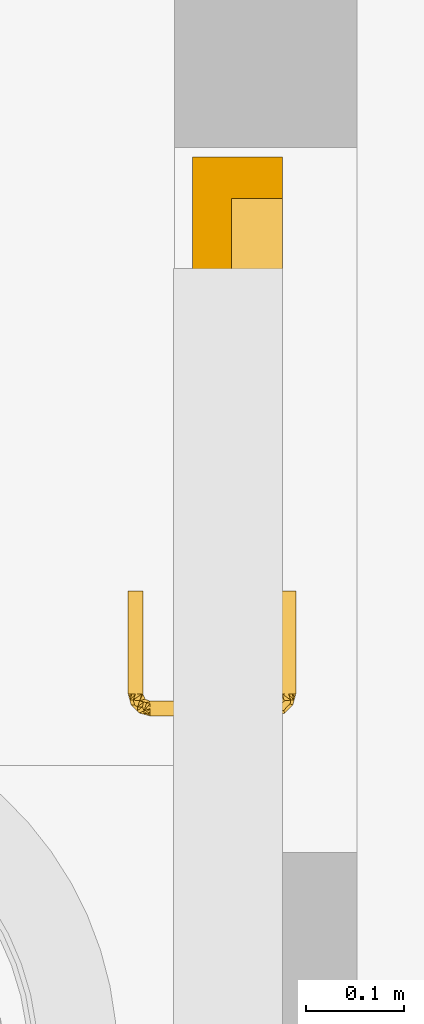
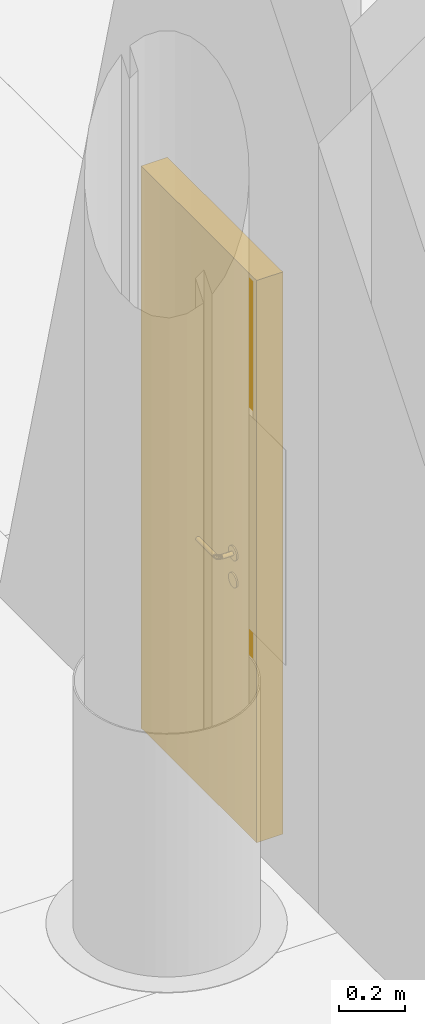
# One storey, part 7 of 10: 1 door.
"""IFC2X3 building model written with IfcOpenShell, lengths in millimetres."""

import ifcopenshell
import ifcopenshell.guid

model = None  # the IFC model being written
_history = None  # IfcOwnerHistory: only IFC2X3 demands one
_inside = {}  # id of a spatial element -> (the spatial element, [elements in it])
_under = {}  # id of a project, library or spatial element -> (it, [spatial elements below it])
_declared = {}  # id of a project -> (the project, [libraries it declares])
_typed = {}  # id of a type object -> (the type object, [elements of that type])
_made_of = {}  # id of a material, layer set ... -> (it, [elements and type objects made of it])


def new_model(schema):
    """Start an empty IFC model of exactly this schema.

    Asked for "IFC4X3", IfcOpenShell would pick the latest addendum, in which some entities
    have other attributes; the version numbers below select the first issue.
    IFC2X3 requires an IfcOwnerHistory on every rooted entity: one is made here for all.
    """
    global model, _history
    if schema == "IFC4X3":
        model = ifcopenshell.file(schema_version=(4, 3, 0, 0))
    else:
        model = ifcopenshell.file(schema=schema)
    _inside.clear()
    _under.clear()
    _declared.clear()
    _typed.clear()
    _made_of.clear()
    _history = None
    if model.schema == "IFC2X3":
        org = make("IfcOrganization", Name="unknown")
        user = make(
            "IfcPersonAndOrganization",
            ThePerson=make("IfcPerson", FamilyName="unknown"),
            TheOrganization=org,
        )
        app = make(
            "IfcApplication",
            ApplicationDeveloper=org,
            Version="unknown",
            ApplicationFullName="unknown",
            ApplicationIdentifier="unknown",
        )
        _history = make(
            "IfcOwnerHistory",
            OwningUser=user,
            OwningApplication=app,
            ChangeAction="ADDED",
            CreationDate=0,
        )
    return model


def make(cls, **values):
    """One entity of the class cls with the attributes given. An attribute that is None is left unset."""
    return model.create_entity(
        cls, **{name: value for name, value in values.items() if value is not None}
    )


def entity(cls, *values):
    """Any entity or typed value of the class cls, its attributes in the order of the schema. None: left unset."""
    e = model.create_entity(cls)
    for i, value in enumerate(values):
        if value is not None:
            e[i] = value
    return e


def rooted(cls, **values):
    """An entity with a GlobalId (a new one), such as an element, a storey or a relation."""
    return make(cls, GlobalId=ifcopenshell.guid.new(), OwnerHistory=_history, **values)


def si_unit(unit_type, name, prefix=None):
    """IfcSIUnit, for example si_unit("LENGTHUNIT", "METRE", prefix="MILLI")."""
    return make("IfcSIUnit", UnitType=unit_type, Prefix=prefix, Name=name)


def converted_unit(unit_type, name, factor, base, dimensions=None, offset=None):
    """IfcConversionBasedUnit, such as the inch: factor (a typed value) times the base unit."""
    return make(
        "IfcConversionBasedUnit"
        if offset is None
        else "IfcConversionBasedUnitWithOffset",
        ConversionOffset=offset,
        Dimensions=None
        if dimensions is None
        else entity("IfcDimensionalExponents", *dimensions),
        UnitType=unit_type,
        Name=name,
        ConversionFactor=make(
            "IfcMeasureWithUnit", ValueComponent=factor, UnitComponent=base
        ),
    )


def derived_unit(unit_type, elements):
    """IfcDerivedUnit: a product of units, each with its exponent."""
    return make(
        "IfcDerivedUnit",
        Elements=[
            make("IfcDerivedUnitElement", Unit=unit, Exponent=power)
            for unit, power in elements
        ],
        UnitType=unit_type,
    )


def assignment(units):
    """IfcUnitAssignment: the units of a project."""
    return None if units is None else make("IfcUnitAssignment", Units=units)


def point(xyz):
    """IfcCartesianPoint."""
    return None if xyz is None else make("IfcCartesianPoint", Coordinates=xyz)


def direction(xyz):
    """IfcDirection."""
    return None if xyz is None else make("IfcDirection", DirectionRatios=xyz)


def frame(location, z_axis=None, x_axis=None):
    """IfcAxis2Placement3D, a coordinate frame: its origin and axes. An axis left out is left unset."""
    return make(
        "IfcAxis2Placement3D",
        Location=point(location),
        Axis=direction(z_axis),
        RefDirection=direction(x_axis),
    )


def frame_2d(location, x_axis=None):
    """IfcAxis2Placement2D, a coordinate frame in the plane: its origin and x axis."""
    return make(
        "IfcAxis2Placement2D", Location=point(location), RefDirection=direction(x_axis)
    )


def origin():
    """The frame at (0, 0, 0) with its axes left unset."""
    return frame((0.0, 0.0, 0.0))


def origin_with_axes():
    """The frame at (0, 0, 0) with the z axis (0, 0, 1) and the x axis (1, 0, 0) written out."""
    return frame((0.0, 0.0, 0.0), z_axis=(0.0, 0.0, 1.0), x_axis=(1.0, 0.0, 0.0))


def origin_2d_with_axis():
    """The frame at (0, 0) in the plane with the x axis (1, 0) written out."""
    return frame_2d((0.0, 0.0), x_axis=(1.0, 0.0))


def place(relative_to, where):
    """IfcLocalPlacement: puts the frame where relative to a parent placement (None: the world)."""
    return make(
        "IfcLocalPlacement", PlacementRelTo=relative_to, RelativePlacement=where
    )


def context(
    kind, dimensions, precision=None, world=None, true_north=None, identifier=None
):
    """IfcGeometricRepresentationContext, for example the 3D "Model" context."""
    return make(
        "IfcGeometricRepresentationContext",
        ContextIdentifier=identifier,
        ContextType=kind,
        CoordinateSpaceDimension=dimensions,
        Precision=precision,
        WorldCoordinateSystem=world,
        TrueNorth=true_north,
    )


def subcontext(parent, identifier, kind, view, scale=None):
    """IfcGeometricRepresentationSubContext, for example "Body" below "Model"."""
    return make(
        "IfcGeometricRepresentationSubContext",
        ContextIdentifier=identifier,
        ContextType=kind,
        ParentContext=parent,
        TargetScale=scale,
        TargetView=view,
    )


def project(units=None, contexts=None):
    """IfcProject with its units and contexts."""
    return rooted(
        "IfcProject",
        Name="project",
        RepresentationContexts=contexts,
        UnitsInContext=assignment(units),
    )


def spatial(cls, under=None, at=None, **own):
    """A site, building, storey or space (cls), placed at a placement, below another one or the project."""
    s = rooted(cls, ObjectPlacement=at, **own)
    if under is not None:
        _under.setdefault(under.id(), (under, []))[1].append(s)
    return s


def polyline(points):
    """IfcPolyline through the points."""
    return make("IfcPolyline", Points=[point(p) for p in points])


def profile(cls, at=None, kind="AREA", **sizes):
    """A parametric profile (cls). Its sizes go by their IFC names, for example OverallWidth=200.0."""
    return make(cls, ProfileType=kind, Position=at, **sizes)


def rectangle(**sizes):
    """IfcRectangleProfileDef."""
    return profile("IfcRectangleProfileDef", **sizes)


def circle(**sizes):
    """IfcCircleProfileDef."""
    return profile("IfcCircleProfileDef", **sizes)


def outline(outer, holes=None, kind="AREA"):
    """IfcArbitraryClosedProfileDef: a profile drawn as a closed curve; with holes, ...WithVoids."""
    if holes is None:
        return make("IfcArbitraryClosedProfileDef", ProfileType=kind, OuterCurve=outer)
    return make(
        "IfcArbitraryProfileDefWithVoids",
        ProfileType=kind,
        OuterCurve=outer,
        InnerCurves=holes,
    )


def extrude(swept, where, along, depth):
    """IfcExtrudedAreaSolid: the profile swept, set in the frame where, extruded along a direction by depth."""
    return make(
        "IfcExtrudedAreaSolid",
        SweptArea=swept,
        Position=where,
        ExtrudedDirection=direction(along),
        Depth=depth,
    )


def faces_of(points, faces, orient=None, outer=None):
    """IfcFace entities. A face is a list of loops; a loop is a list of indices into points, from 0.

    orient and outer hold one flag for each loop. By default every Orientation is true, the
    first loop of a face is its IfcFaceOuterBound and the others are IfcFaceBound.
    """
    made = []
    for i, loops in enumerate(faces):
        bounds = []
        for j, loop in enumerate(loops):
            is_outer = j == 0 if outer is None else outer[i][j]
            bounds.append(
                make(
                    "IfcFaceOuterBound" if is_outer else "IfcFaceBound",
                    Bound=make("IfcPolyLoop", Polygon=[points[k] for k in loop]),
                    Orientation=True if orient is None else orient[i][j],
                )
            )
        made.append(make("IfcFace", Bounds=bounds))
    return made


def faceted_brep(points, faces, orient=None, outer=None, voids=None):
    """IfcFacetedBrep: a solid bounded by flat faces; with voids (closed shells), ...WithVoids."""
    shared = [point(p) for p in points]
    hull = make("IfcClosedShell", CfsFaces=faces_of(shared, faces, orient, outer))
    if voids is None:
        return make("IfcFacetedBrep", Outer=hull)
    return make(
        "IfcFacetedBrepWithVoids",
        Outer=hull,
        Voids=[
            make(cls, CfsFaces=faces_of(shared, fs, o, b)) for cls, fs, o, b in voids
        ],
    )


def shape(context_of_items, identifier, shape_type, items):
    """IfcShapeRepresentation: the items that make up one representation, for example the "Body"."""
    return make(
        "IfcShapeRepresentation",
        ContextOfItems=context_of_items,
        RepresentationIdentifier=identifier,
        RepresentationType=shape_type,
        Items=items,
    )


def source(mapping_origin, context_of_items, identifier, shape_type, items):
    """IfcRepresentationMap: a shape defined once, which mapped items show again and again."""
    return make(
        "IfcRepresentationMap",
        MappingOrigin=mapping_origin,
        MappedRepresentation=shape(context_of_items, identifier, shape_type, items),
    )


def transform(
    local_origin,
    x_axis=None,
    y_axis=None,
    z_axis=None,
    scale=None,
    scale2=None,
    scale3=None,
    uniform=True,
):
    """IfcCartesianTransformationOperator3D, or its non-uniform kind. x_axis, y_axis, z_axis: its Axis1, 2, 3."""
    if uniform:
        return make(
            "IfcCartesianTransformationOperator3D",
            Axis1=direction(x_axis),
            Axis2=direction(y_axis),
            LocalOrigin=point(local_origin),
            Scale=scale,
            Axis3=direction(z_axis),
        )
    return make(
        "IfcCartesianTransformationOperator3DnonUniform",
        Axis1=direction(x_axis),
        Axis2=direction(y_axis),
        LocalOrigin=point(local_origin),
        Scale=scale,
        Axis3=direction(z_axis),
        Scale2=scale2,
        Scale3=scale3,
    )


def mapped(mapping_source, mapping_target):
    """IfcMappedItem: shows the shape of a source again, moved by a transform."""
    return make(
        "IfcMappedItem", MappingSource=mapping_source, MappingTarget=mapping_target
    )


def material(Name=None, Category=None):
    """IfcMaterial."""
    return make("IfcMaterial", Name=Name, Category=Category)


def made_of(thing, what):
    """Note that an element or type object is made of a material, layer set ...; save() writes the relation."""
    if what is not None:
        _made_of.setdefault(what.id(), (what, []))[1].append(thing)
    return thing


def type_object(cls, material=None, **own):
    """A type object (cls), such as IfcWallType, which elements share."""
    return made_of(rooted(cls, **own), material)


def element(
    cls,
    number,
    at=None,
    inside=None,
    cuts=None,
    type_object=None,
    material=None,
    context=None,
    identifier="Body",
    shape_type=None,
    held_by="IfcProductDefinitionShape",
    body=None,
    shapes=None,
    **own,
):
    """One element of the class cls, such as IfcWall. Its Tag is "e" and its number.

    at: its placement. inside: the storey or other place that contains it. cuts: it is an
    opening in that element (IfcRelVoidsElement). A single representation is given by context,
    identifier, shape_type and body (its items); several are given by shapes. held_by: the class
    of the entity that holds the representations. save() writes the other relations.
    """
    e = rooted(cls, Tag="e%d" % number, ObjectPlacement=at, **own)
    if body is not None:
        shapes = [shape(context, identifier, shape_type, body)]
    if shapes is not None:
        e.Representation = make(held_by, Representations=shapes)
    if inside is not None:
        _inside.setdefault(inside.id(), (inside, []))[1].append(e)
    if cuts is not None:
        rooted(
            "IfcRelVoidsElement", RelatingBuildingElement=cuts, RelatedOpeningElement=e
        )
    if type_object is not None:
        _typed.setdefault(type_object.id(), (type_object, []))[1].append(e)
    return made_of(e, material)


def aggregate(whole, parts):
    """IfcRelAggregates: a whole, such as a stair, and the parts it consists of."""
    return rooted("IfcRelAggregates", RelatingObject=whole, RelatedObjects=parts)


def save(model, path):
    """Write the relations noted so far, then the file.

    IfcRelAggregates (storeys below a building ...), IfcRelContainedInSpatialStructure (elements
    in a storey), IfcRelDefinesByType, IfcRelAssociatesMaterial and IfcRelDeclares: one each for
    every whole, place, type object, material and project.
    """
    for whole, parts in _under.values():
        aggregate(whole, parts)
    for where, things in _inside.values():
        rooted(
            "IfcRelContainedInSpatialStructure",
            RelatedElements=things,
            RelatingStructure=where,
        )
    for kind, things in _typed.values():
        rooted("IfcRelDefinesByType", RelatedObjects=things, RelatingType=kind)
    for what, things in _made_of.values():
        rooted("IfcRelAssociatesMaterial", RelatedObjects=things, RelatingMaterial=what)
    for by, libraries in _declared.values():
        rooted("IfcRelDeclares", RelatingContext=by, RelatedDefinitions=libraries)
    model.write(path)


model = new_model("IFC2X3")

# Units and contexts
model_context = context("Model", 3, precision=0.01, world=origin(), true_north=direction((6.12303176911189e-17, 1.0)))
plan_context = context("Plan", 3, precision=1e-05, world=origin_with_axes())
body_context = subcontext(model_context, "Body", "Model", "MODEL_VIEW")
ifc_project = project(units=[converted_unit("PLANEANGLEUNIT", "DEGREE", entity("IfcPositiveLengthMeasure", 0.0174532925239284), si_unit("PLANEANGLEUNIT", "RADIAN"), dimensions=[0, 0, 0, 0, 0, 0, 0]), si_unit("AREAUNIT", "SQUARE_METRE"), si_unit("LENGTHUNIT", "METRE", prefix="MILLI"), si_unit("MASSUNIT", "GRAM", prefix="KILO"), si_unit("POWERUNIT", "WATT"), si_unit("PRESSUREUNIT", "PASCAL"), si_unit("FORCEUNIT", "NEWTON", prefix="KILO"), si_unit("ELECTRICVOLTAGEUNIT", "VOLT"), si_unit("ELECTRICCURRENTUNIT", "AMPERE"), si_unit("THERMODYNAMICTEMPERATUREUNIT", "DEGREE_CELSIUS"), si_unit("TIMEUNIT", "SECOND"), si_unit("VOLUMEUNIT", "CUBIC_METRE"), derived_unit("LINEARVELOCITYUNIT", [(si_unit("LENGTHUNIT", "METRE"), 1), (si_unit("TIMEUNIT", "SECOND"), -1)]), derived_unit("VOLUMETRICFLOWRATEUNIT", [(si_unit("VOLUMEUNIT", "CUBIC_METRE"), 1), (si_unit("TIMEUNIT", "SECOND"), -1)]), derived_unit("THERMALTRANSMITTANCEUNIT", [(si_unit("POWERUNIT", "WATT"), 1), (si_unit("THERMODYNAMICTEMPERATUREUNIT", "KELVIN"), -1), (si_unit("AREAUNIT", "SQUARE_METRE"), -1)]), derived_unit("SOUNDPRESSUREUNIT", [(si_unit("PRESSUREUNIT", "PASCAL"), 1)])], contexts=[model_context, plan_context])

# Site, building, storey
site_placement = place(None, frame((2314154.5009392, 1029894.10887124, 0.0), z_axis=(0.0, 0.0, 1.0), x_axis=(1.0, 0.0, 0.0)))
site = spatial("IfcSite", under=ifc_project, at=site_placement, Name="Default", CompositionType="ELEMENT")
building_placement = place(site_placement, origin_with_axes())
building = spatial("IfcBuilding", under=site, at=building_placement, CompositionType="ELEMENT")
storey_placement = place(building_placement, frame((0.0, 0.0, 9320.0), z_axis=(0.0, 0.0, 1.0), x_axis=(1.0, 0.0, 0.0)))
storey = spatial("IfcBuildingStorey", under=building, at=storey_placement, Name="H01 Hovedetasje", CompositionType="ELEMENT", Elevation=9320.0)

# Door
ifc_material = material(Name="N_Door - Handle")
door_style = type_object("IfcDoorStyle", Name="Værnes_ENK INT-Dørblad laminert_ Ramme stål:700 x 2100mm", ConstructionType="NOTDEFINED", OperationType="SINGLE_SWING_RIGHT", ParameterTakesPrecedence=False, Sizeable=False, material=ifc_material)
shared_shape = source(origin(), body_context, "Body", "SolidModel", [
    extrude(circle(Radius=25.0, at=frame_2d((0.0, -1.35358391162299e-13), x_axis=(1.0, 0.0))), frame((147.0, 168.0, 900.0), z_axis=(0.0, 1.0, 0.0), x_axis=(-1.0, 0.0, 0.0)), (0.0, 0.0, 1.0), 4.99999999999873),
    extrude(circle(Radius=25.0, at=frame_2d((0.0, -1.35358391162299e-13), x_axis=(1.0, 0.0))), frame((147.0, 123.0, 900.0), z_axis=(0.0, 1.0, 0.0), x_axis=(-1.0, 0.0, 0.0)), (0.0, 0.0, 1.0), 4.99999999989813),
    extrude(circle(Radius=25.0, at=frame_2d((0.0, -1.35358391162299e-13), x_axis=(1.0, 0.0))), frame((147.0, 123.0, 1000.0), z_axis=(0.0, 1.0, 0.0), x_axis=(-1.0, 0.0, 0.0)), (0.0, 0.0, 1.0), 4.99999999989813),
    extrude(circle(Radius=25.0, at=origin_2d_with_axis()), frame((147.0, 168.0, 1000.0), z_axis=(0.0, 1.0, 0.0), x_axis=(-1.0, 0.0, 0.0)), (0.0, 0.0, 1.0), 4.99999999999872),
    extrude(rectangle(XDim=616.0, YDim=40.000000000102, at=origin_2d_with_axis()), frame((360.0, 148.0, 30.0)), (0.0, 0.0, 1.0), 2018.0),
    extrude(rectangle(XDim=616.0, YDim=92.0000000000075, at=origin_2d_with_axis()), frame((360.0, 122.0, 10.0)), (0.0, 0.0, 1.0), 20.0),
    extrude(outline(polyline([(-1029.5, -308.0), (-1029.5, -350.0), (1050.5, -350.0), (1050.5, 350.0), (-1029.5, 350.0), (-1029.5, 308.0), (1008.5, 308.0), (1008.5, -308.0), (-1029.5, -308.0)])), frame((360.0, 76.0, 1039.5), z_axis=(0.0, -1.0, 0.0), x_axis=(0.0, 0.0, 1.0)), (0.0, 0.0, -1.0), 92.0),
    faceted_brep([(148.776872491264, 123.0, 992.462008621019), (146.835729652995, 123.0, 992.206452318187), (144.894586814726, 123.0, 992.462008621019), (143.085729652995, 123.0, 993.211261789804), (141.532428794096, 123.0, 994.403151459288), (140.340539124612, 123.0, 995.956452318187), (139.591285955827, 123.0, 997.765309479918), (139.335729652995, 123.0, 999.706452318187), (139.591285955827, 123.0, 1001.64759515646), (140.340539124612, 123.0, 1003.45645231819), (141.532428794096, 123.0, 1005.00975317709), (143.085729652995, 123.0, 1006.20164284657), (144.894586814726, 123.0, 1006.95089601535), (146.835729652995, 123.0, 1007.20645231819), (148.776872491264, 123.0, 1006.95089601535), (150.585729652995, 123.0, 1006.20164284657), (152.139030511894, 123.0, 1005.00975317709), (153.330920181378, 123.0, 1003.45645231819), (154.080173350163, 123.0, 1001.64759515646), (154.335729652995, 123.0, 999.706452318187), (154.080173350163, 123.0, 997.765309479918), (153.330920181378, 123.0, 995.956452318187), (152.139030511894, 123.0, 994.403151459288), (150.585729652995, 123.0, 993.211261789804), (139.591285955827, 85.0, 1001.64759515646), (139.335729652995, 85.0, 999.706452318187), (140.340539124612, 85.0, 1003.45645231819), (141.532428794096, 85.0, 1005.00975317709), (143.085729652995, 85.0, 1006.20164284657), (144.894586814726, 85.0, 1006.95089601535), (146.835729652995, 85.0, 1007.20645231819), (150.585729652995, 85.0, 1006.20164284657), (148.776872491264, 85.0, 1006.95089601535), (152.139030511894, 85.0, 1005.00975317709), (153.330920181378, 85.0, 1003.45645231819), (154.080173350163, 85.0, 1001.64759515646), (154.335729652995, 85.0, 999.706452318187), (154.080173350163, 85.0, 997.765309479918), (153.330920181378, 85.0, 995.956452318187), (152.139030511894, 85.0, 994.403151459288), (150.585729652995, 85.0, 993.211261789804), (148.776872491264, 85.0, 992.462008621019), (146.835729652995, 85.0, 992.206452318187), (143.085729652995, 85.0, 993.211261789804), (144.894586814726, 85.0, 992.462008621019), (141.532428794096, 85.0, 994.403151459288), (139.591285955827, 85.0, 997.765309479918), (140.340539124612, 85.0, 995.956452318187), (139.766854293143, 83.3910209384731, 999.706452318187), (144.376029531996, 78.7143739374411, 1006.31466321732), (141.060228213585, 78.5640837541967, 999.706452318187), (142.372166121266, 73.6678648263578, 999.706452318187), (146.520015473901, 69.5200154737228, 999.706452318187), (148.593940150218, 67.4460907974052, 999.706452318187), (147.916933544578, 72.1613468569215, 1006.11720687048), (144.446090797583, 71.5939401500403, 999.706452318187), (140.19797893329, 81.7820418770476, 999.706452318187), (152.915895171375, 75.9158955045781, 1006.83944803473), (154.978679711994, 73.9837631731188, 1006.90624300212), (155.714373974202, 67.3760294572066, 1006.31466318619), (151.786954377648, 68.1763881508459, 1005.69389815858), (150.667864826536, 65.3721661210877, 999.706452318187), (145.128688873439, 74.7049249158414, 1005.63006823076), (162.0, 63.3405391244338, 1003.45645231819), (160.391020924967, 62.7668542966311, 999.706452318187), (162.0, 62.5912859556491, 1001.64759515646), (158.782041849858, 63.1979789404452, 999.706452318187), (150.983762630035, 77.9786793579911, 1006.90624319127), (159.290271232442, 78.4581360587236, 999.706452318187), (155.458136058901, 82.2902712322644, 999.706452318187), (156.580542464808, 79.5805424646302, 999.706452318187), (162.0, 67.894586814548, 1006.95089601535), (162.0, 69.8357296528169, 1007.20645231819), (155.56408369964, 64.0602282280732, 999.706452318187), (162.0, 66.085729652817, 1006.20164284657), (162.0, 75.139030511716, 1005.00975317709), (162.0, 73.5857296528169, 1006.20164284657), (162.0, 71.7768724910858, 1006.95089601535), (162.0, 64.5324287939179, 1005.00975317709), (162.0, 62.3357296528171, 999.706452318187), (162.0, 77.3357296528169, 999.706452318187), (162.0, 77.080173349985, 1001.64759515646), (162.0, 76.3309201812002, 1003.45645231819), (144.376029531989, 78.7143739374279, 993.098241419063), (154.978679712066, 73.983763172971, 992.506661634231), (150.359409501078, 69.1550573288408, 993.704203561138), (148.702808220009, 72.159052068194, 992.981799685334), (155.714373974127, 67.3760294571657, 993.098241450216), (162.0, 76.3309201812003, 995.956452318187), (162.0, 62.5912859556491, 997.765309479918), (152.932116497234, 81.3675119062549, 994.497374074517), (148.702776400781, 77.0531328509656, 992.213569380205), (162.0, 77.080173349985, 997.765309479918), (162.0, 66.0857296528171, 993.211261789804), (153.650098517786, 78.1726084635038, 993.617178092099), (162.0, 75.1390305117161, 994.403151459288), (162.0, 73.5857296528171, 993.211261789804), (162.0, 71.776872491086, 992.462008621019), (162.0, 63.3405391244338, 995.956452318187), (162.0, 69.8357296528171, 992.206452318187), (162.0, 67.8945868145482, 992.462008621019), (162.0, 64.532428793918, 994.403151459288), (267.0, 73.5857296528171, 993.211261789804), (267.0, 75.1390305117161, 994.403151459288), (267.0, 76.3309201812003, 995.956452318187), (267.0, 77.080173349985, 997.765309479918), (267.0, 77.335729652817, 999.706452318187), (267.0, 77.080173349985, 1001.64759515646), (267.0, 76.3309201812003, 1003.45645231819), (267.0, 75.1390305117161, 1005.00975317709), (267.0, 73.585729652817, 1006.20164284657), (267.0, 71.7768724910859, 1006.95089601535), (267.0, 69.835729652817, 1007.20645231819), (267.0, 67.8945868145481, 1006.95089601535), (267.0, 66.085729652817, 1006.20164284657), (267.0, 64.5324287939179, 1005.00975317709), (267.0, 63.3405391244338, 1003.45645231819), (267.0, 62.5912859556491, 1001.64759515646), (267.0, 62.3357296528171, 999.706452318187), (267.0, 62.5912859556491, 997.765309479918), (267.0, 63.3405391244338, 995.956452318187), (267.0, 64.532428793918, 994.403151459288), (267.0, 66.0857296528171, 993.211261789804), (267.0, 67.8945868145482, 992.462008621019), (267.0, 69.8357296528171, 992.206452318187), (267.0, 71.776872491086, 992.462008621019)], [[[0, 1, 2, 3, 4, 5, 6, 7, 8, 9, 10, 11, 12, 13, 14, 15, 16, 17, 18, 19, 20, 21, 22, 23]], [[24, 8, 7, 25]], [[26, 9, 8, 24]], [[10, 27, 28, 11]], [[26, 27, 10, 9]], [[11, 28, 29, 12]], [[12, 29, 30, 13]], [[31, 15, 14, 32]], [[33, 16, 15, 31]], [[17, 34, 35, 18]], [[33, 34, 17, 16]], [[18, 35, 36, 19]], [[14, 13, 30, 32]], [[37, 20, 19, 36]], [[38, 21, 20, 37]], [[22, 39, 40, 23]], [[38, 39, 22, 21]], [[23, 40, 41, 0]], [[0, 41, 42, 1]], [[43, 3, 2, 44]], [[45, 4, 3, 43]], [[46, 6, 5, 47]], [[45, 47, 5, 4]], [[6, 46, 25, 7]], [[2, 1, 42, 44]], [[24, 48, 26]], [[49, 50, 51]], [[52, 53, 54, 55]], [[28, 27, 56]], [[26, 56, 27]], [[57, 54, 58]], [[28, 50, 29]], [[30, 29, 50]], [[59, 60, 61]], [[59, 58, 60]], [[55, 54, 62]], [[30, 50, 49]], [[30, 49, 32]], [[62, 49, 51]], [[62, 51, 55]], [[63, 64, 65]], [[49, 31, 32]], [[66, 64, 63]], [[35, 67, 36]], [[34, 33, 49]], [[54, 67, 62]], [[31, 49, 33]], [[57, 58, 68]], [[69, 57, 70]], [[53, 60, 54]], [[71, 72, 73]], [[73, 74, 71]], [[75, 59, 76]], [[77, 59, 72]], [[78, 74, 66]], [[54, 60, 58]], [[66, 74, 73]], [[61, 60, 53]], [[65, 64, 79]], [[59, 61, 73]], [[58, 80, 68]], [[28, 56, 50]], [[54, 57, 67]], [[49, 67, 34]], [[81, 80, 58]], [[66, 63, 78]], [[82, 81, 58]], [[34, 67, 35]], [[75, 82, 59]], [[24, 25, 48]], [[82, 58, 59]], [[48, 56, 26]], [[76, 59, 77]], [[59, 73, 72]], [[49, 62, 67]], [[57, 69, 67]], [[68, 70, 57]], [[69, 36, 67]], [[83, 50, 42]], [[84, 85, 86]], [[87, 84, 88]], [[83, 41, 40]], [[83, 51, 50]], [[89, 79, 64]], [[90, 39, 38]], [[90, 37, 36]], [[38, 37, 90]], [[51, 91, 55]], [[90, 36, 69]], [[83, 39, 90]], [[48, 25, 46]], [[43, 56, 45]], [[42, 50, 44]], [[51, 83, 91]], [[56, 43, 50]], [[43, 44, 50]], [[83, 42, 41]], [[87, 85, 84]], [[52, 85, 61, 53]], [[39, 83, 40]], [[83, 90, 91]], [[86, 52, 55]], [[92, 84, 80]], [[93, 66, 73]], [[84, 94, 70]], [[95, 87, 88]], [[56, 47, 45]], [[96, 97, 87]], [[64, 66, 98]], [[56, 48, 47]], [[96, 87, 95]], [[47, 48, 46]], [[99, 87, 97]], [[100, 73, 99]], [[88, 84, 92]], [[101, 66, 93]], [[73, 100, 93]], [[84, 70, 68, 80]], [[87, 99, 73]], [[98, 89, 64]], [[61, 85, 87]], [[61, 87, 73]], [[69, 94, 90]], [[98, 66, 101]], [[91, 94, 86]], [[90, 94, 91]], [[94, 84, 86]], [[55, 91, 86]], [[85, 52, 86]], [[94, 69, 70]], [[102, 103, 104, 105, 106, 107, 108, 109, 110, 111, 112, 113, 114, 115, 116, 117, 118, 119, 120, 121, 122, 123, 124, 125]], [[79, 118, 117, 65]], [[116, 63, 65, 117]], [[78, 115, 114, 74]], [[116, 115, 78, 63]], [[74, 114, 113, 71]], [[71, 113, 112, 72]], [[110, 109, 75, 76]], [[111, 110, 76, 77]], [[107, 106, 80, 81]], [[108, 107, 81, 82]], [[109, 108, 82, 75]], [[77, 72, 112, 111]], [[105, 104, 88, 92]], [[106, 105, 92, 80]], [[102, 125, 97, 96]], [[103, 102, 96, 95]], [[104, 103, 95, 88]], [[97, 125, 124, 99]], [[122, 121, 101, 93]], [[123, 122, 93, 100]], [[119, 118, 79, 89]], [[120, 119, 89, 98]], [[121, 120, 98, 101]], [[99, 124, 123, 100]]]),
    faceted_brep([(143.334420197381, 173.0, 993.523932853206), (145.143277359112, 173.0, 992.774679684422), (147.084420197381, 173.0, 992.51912338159), (149.02556303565, 173.0, 992.774679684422), (150.834420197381, 173.0, 993.523932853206), (152.38772105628, 173.0, 994.715822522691), (153.579610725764, 173.0, 996.26912338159), (154.328863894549, 173.0, 998.077980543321), (154.584420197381, 173.0, 1000.01912338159), (154.328863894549, 173.0, 1001.96026621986), (153.579610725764, 173.0, 1003.76912338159), (152.38772105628, 173.0, 1005.32242424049), (150.834420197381, 173.0, 1006.51431390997), (149.02556303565, 173.0, 1007.26356707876), (147.084420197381, 173.0, 1007.51912338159), (145.143277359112, 173.0, 1007.26356707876), (143.334420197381, 173.0, 1006.51431390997), (141.781119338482, 173.0, 1005.32242424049), (140.589229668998, 173.0, 1003.76912338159), (139.839976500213, 173.0, 1001.96026621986), (139.584420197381, 173.0, 1000.01912338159), (139.839976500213, 173.0, 998.077980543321), (140.589229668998, 173.0, 996.26912338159), (141.781119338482, 173.0, 994.715822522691), (154.328863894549, 211.0, 1001.96026621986), (154.584420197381, 211.0, 1000.01912338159), (153.579610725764, 211.0, 1003.76912338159), (152.38772105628, 211.0, 1005.32242424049), (150.834420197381, 211.0, 1006.51431390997), (149.02556303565, 211.0, 1007.26356707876), (147.084420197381, 211.0, 1007.51912338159), (143.334420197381, 211.0, 1006.51431390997), (145.143277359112, 211.0, 1007.26356707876), (141.781119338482, 211.0, 1005.32242424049), (140.589229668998, 211.0, 1003.76912338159), (139.839976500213, 211.0, 1001.96026621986), (139.584420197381, 211.0, 1000.01912338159), (139.839976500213, 211.0, 998.077980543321), (140.589229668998, 211.0, 996.26912338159), (141.781119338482, 211.0, 994.715822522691), (143.334420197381, 211.0, 993.523932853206), (145.143277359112, 211.0, 992.774679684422), (147.084420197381, 211.0, 992.51912338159), (150.834420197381, 211.0, 993.523932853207), (149.02556303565, 211.0, 992.774679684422), (152.38772105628, 211.0, 994.715822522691), (154.328863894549, 211.0, 998.077980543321), (153.579610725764, 211.0, 996.26912338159), (267.0, 227.856722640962, 992.774679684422), (267.0, 229.665579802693, 993.523932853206), (267.0, 231.218880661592, 994.715822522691), (267.0, 232.410770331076, 996.26912338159), (267.0, 233.160023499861, 998.077980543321), (267.0, 233.415579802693, 1000.01912338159), (267.0, 233.160023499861, 1001.96026621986), (267.0, 232.410770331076, 1003.76912338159), (267.0, 231.218880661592, 1005.32242424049), (267.0, 229.665579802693, 1006.51431390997), (267.0, 227.856722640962, 1007.26356707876), (267.0, 225.915579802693, 1007.51912338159), (267.0, 223.974436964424, 1007.26356707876), (267.0, 222.165579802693, 1006.51431390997), (267.0, 220.612278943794, 1005.32242424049), (267.0, 219.42038927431, 1003.76912338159), (267.0, 218.671136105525, 1001.96026621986), (267.0, 218.415579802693, 1000.01912338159), (267.0, 218.671136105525, 998.077980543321), (267.0, 219.42038927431, 996.26912338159), (267.0, 220.612278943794, 994.715822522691), (267.0, 222.165579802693, 993.523932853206), (267.0, 223.974436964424, 992.774679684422), (267.0, 225.915579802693, 992.51912338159), (144.598552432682, 217.218261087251, 1006.61846589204), (141.280637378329, 217.330368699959, 1000.01912338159), (155.051684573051, 221.815056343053, 1007.23043185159), (150.4780260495, 226.649113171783, 1006.00584122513), (148.825646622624, 223.718808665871, 1006.70596840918), (155.781738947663, 228.401447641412, 1006.61846586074), (162.0, 219.42038927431, 1003.76912338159), (142.587538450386, 222.207789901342, 1000.01912338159), (162.0, 233.160023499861, 1001.96026621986), (162.0, 233.415579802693, 1000.01912338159), (160.417407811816, 232.991525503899, 1000.01912338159), (153.156364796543, 214.595468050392, 1005.25590565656), (148.884931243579, 218.897170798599, 1007.50878931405), (144.638706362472, 224.258957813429, 1000.01912338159), (155.670406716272, 213.621803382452, 1000.01912338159), (140.008474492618, 212.582592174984, 1000.01912338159), (140.432528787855, 214.165184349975, 1000.01912338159), (159.378196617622, 217.329593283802, 1000.01912338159), (162.0, 218.415579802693, 1000.01912338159), (156.756393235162, 216.243606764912, 1000.01912338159), (146.689874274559, 226.310125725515, 1000.01912338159), (150.792210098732, 230.412461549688, 1000.01912338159), (148.741042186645, 228.361293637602, 1000.01912338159), (162.0, 229.665579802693, 1006.51431390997), (158.83481562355, 232.567471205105, 1000.01912338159), (155.669631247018, 231.719362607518, 1000.01912338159), (162.0, 218.671136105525, 1001.96026621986), (162.0, 220.612278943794, 1005.32242424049), (162.0, 222.165579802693, 1006.51431390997), (162.0, 223.974436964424, 1007.26356707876), (162.0, 232.410770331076, 1003.76912338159), (162.0, 225.915579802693, 1007.51912338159), (162.0, 227.856722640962, 1007.26356707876), (162.0, 231.218880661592, 1005.32242424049), (153.816421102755, 217.793775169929, 1006.17833928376), (144.598552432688, 217.218261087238, 993.41978087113), (148.025855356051, 223.701787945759, 993.655143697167), (152.938318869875, 220.061680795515, 992.819248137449), (155.051684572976, 221.815056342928, 992.807814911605), (155.781738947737, 228.401447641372, 993.419780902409), (151.918956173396, 227.601753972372, 994.024555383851), (145.338746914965, 221.18151394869, 994.103466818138), (162.0, 232.410770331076, 996.26912338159), (162.0, 233.160023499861, 998.077980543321), (151.184943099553, 217.948315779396, 992.807814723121), (162.0, 227.856722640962, 992.774679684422), (162.0, 225.915579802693, 992.51912338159), (162.0, 229.665579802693, 993.523932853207), (162.0, 220.612278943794, 994.715822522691), (162.0, 222.165579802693, 993.523932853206), (162.0, 223.974436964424, 992.774679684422), (162.0, 231.218880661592, 994.715822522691), (162.0, 218.671136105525, 998.077980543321), (162.0, 219.42038927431, 996.26912338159)], [[[0, 1, 2, 3, 4, 5, 6, 7, 8, 9, 10, 11, 12, 13, 14, 15, 16, 17, 18, 19, 20, 21, 22, 23]], [[24, 9, 8, 25]], [[26, 10, 9, 24]], [[11, 27, 28, 12]], [[26, 27, 11, 10]], [[12, 28, 29, 13]], [[13, 29, 30, 14]], [[31, 16, 15, 32]], [[33, 17, 16, 31]], [[18, 34, 35, 19]], [[33, 34, 18, 17]], [[19, 35, 36, 20]], [[15, 14, 30, 32]], [[37, 21, 20, 36]], [[38, 22, 21, 37]], [[23, 39, 40, 0]], [[38, 39, 23, 22]], [[0, 40, 41, 1]], [[1, 41, 42, 2]], [[43, 4, 3, 44]], [[45, 5, 4, 43]], [[46, 7, 6, 47]], [[45, 47, 6, 5]], [[7, 46, 25, 8]], [[3, 2, 42, 44]], [[48, 49, 50, 51, 52, 53, 54, 55, 56, 57, 58, 59, 60, 61, 62, 63, 64, 65, 66, 67, 68, 69, 70, 71]], [[72, 73, 30]], [[74, 75, 76]], [[77, 74, 78]], [[72, 29, 28]], [[72, 79, 73]], [[80, 81, 82]], [[83, 27, 26]], [[83, 24, 25]], [[26, 24, 83]], [[79, 84, 85]], [[83, 25, 86]], [[72, 27, 83]], [[87, 36, 35]], [[31, 88, 33]], [[30, 73, 32]], [[79, 72, 84]], [[88, 31, 73]], [[31, 32, 73]], [[72, 30, 29]], [[89, 90, 74, 91]], [[92, 75, 93, 94]], [[27, 72, 28]], [[72, 83, 84]], [[76, 92, 85]], [[95, 96, 97]], [[98, 74, 90]], [[99, 77, 78]], [[88, 34, 33]], [[100, 101, 77]], [[82, 96, 102]], [[88, 87, 34]], [[100, 77, 99]], [[34, 87, 35]], [[103, 77, 101]], [[104, 97, 103]], [[78, 74, 98]], [[105, 96, 95]], [[97, 104, 95]], [[91, 74, 106]], [[77, 103, 97]], [[102, 80, 82]], [[93, 75, 77]], [[93, 77, 97]], [[86, 106, 83]], [[77, 75, 74]], [[102, 96, 105]], [[84, 106, 76]], [[83, 106, 84]], [[106, 74, 76]], [[85, 84, 76]], [[75, 92, 76]], [[106, 86, 91]], [[37, 87, 38]], [[107, 73, 79]], [[92, 94, 108, 85]], [[40, 39, 88]], [[38, 88, 39]], [[109, 108, 110]], [[40, 73, 41]], [[42, 41, 73]], [[111, 112, 93]], [[111, 110, 112]], [[85, 108, 113]], [[42, 73, 107]], [[42, 107, 44]], [[113, 107, 79]], [[113, 79, 85]], [[114, 82, 115]], [[107, 43, 44]], [[96, 82, 114]], [[109, 86, 116]], [[47, 45, 107]], [[108, 116, 113]], [[43, 107, 45]], [[109, 110, 89]], [[25, 46, 116]], [[94, 112, 108]], [[117, 118, 97]], [[97, 119, 117]], [[120, 111, 121]], [[122, 111, 118]], [[123, 119, 96]], [[108, 112, 110]], [[96, 119, 97]], [[93, 112, 94]], [[115, 82, 81]], [[111, 93, 97]], [[86, 25, 116]], [[40, 88, 73]], [[108, 109, 116]], [[107, 116, 47]], [[124, 90, 110]], [[96, 114, 123]], [[125, 124, 110]], [[47, 116, 46]], [[120, 125, 111]], [[37, 36, 87]], [[125, 110, 111]], [[87, 88, 38]], [[121, 111, 122]], [[111, 97, 118]], [[107, 113, 116]], [[86, 109, 91]], [[89, 91, 109]], [[110, 90, 89]], [[90, 65, 64, 98]], [[63, 78, 98, 64]], [[99, 62, 61, 100]], [[63, 62, 99, 78]], [[100, 61, 60, 101]], [[101, 60, 59, 103]], [[57, 56, 105, 95]], [[58, 57, 95, 104]], [[54, 53, 81, 80]], [[55, 54, 80, 102]], [[56, 55, 102, 105]], [[104, 103, 59, 58]], [[52, 51, 114, 115]], [[53, 52, 115, 81]], [[49, 48, 117, 119]], [[50, 49, 119, 123]], [[51, 50, 123, 114]], [[117, 48, 71, 118]], [[69, 68, 120, 121]], [[70, 69, 121, 122]], [[66, 65, 90, 124]], [[67, 66, 124, 125]], [[68, 67, 125, 120]], [[118, 71, 70, 122]]]),
])
door_placement = place(storey_placement, frame((101970.336509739, -39738.2681287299, 0.0), z_axis=(0.0, 0.0, 1.0), x_axis=(0.0, 1.0, 0.0)))
element("IfcDoor", 1, at=door_placement, inside=storey, type_object=door_style, material=ifc_material, Name="Værnes_ENK INT-Dørblad laminert_ Ramme stål:700 x 2100mm", ObjectType="Værnes_ENK INT-Dørblad laminert_ Ramme stål:700 x 2100mm", OverallHeight=2100.00000000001, OverallWidth=720.00000000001, context=body_context, shape_type="MappedRepresentation", body=[
    mapped(shared_shape, transform((0.0, 0.0, 0.0), scale=1.0)),
])

save(model, "model.ifc")
